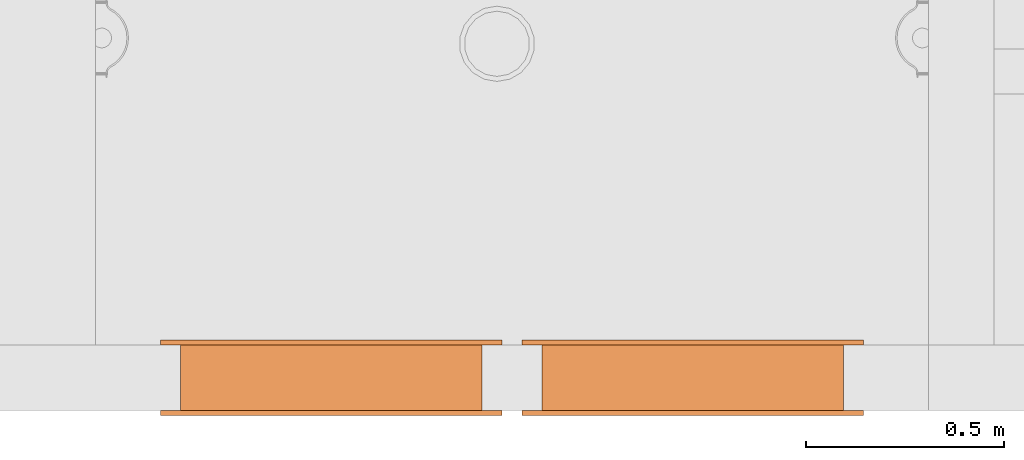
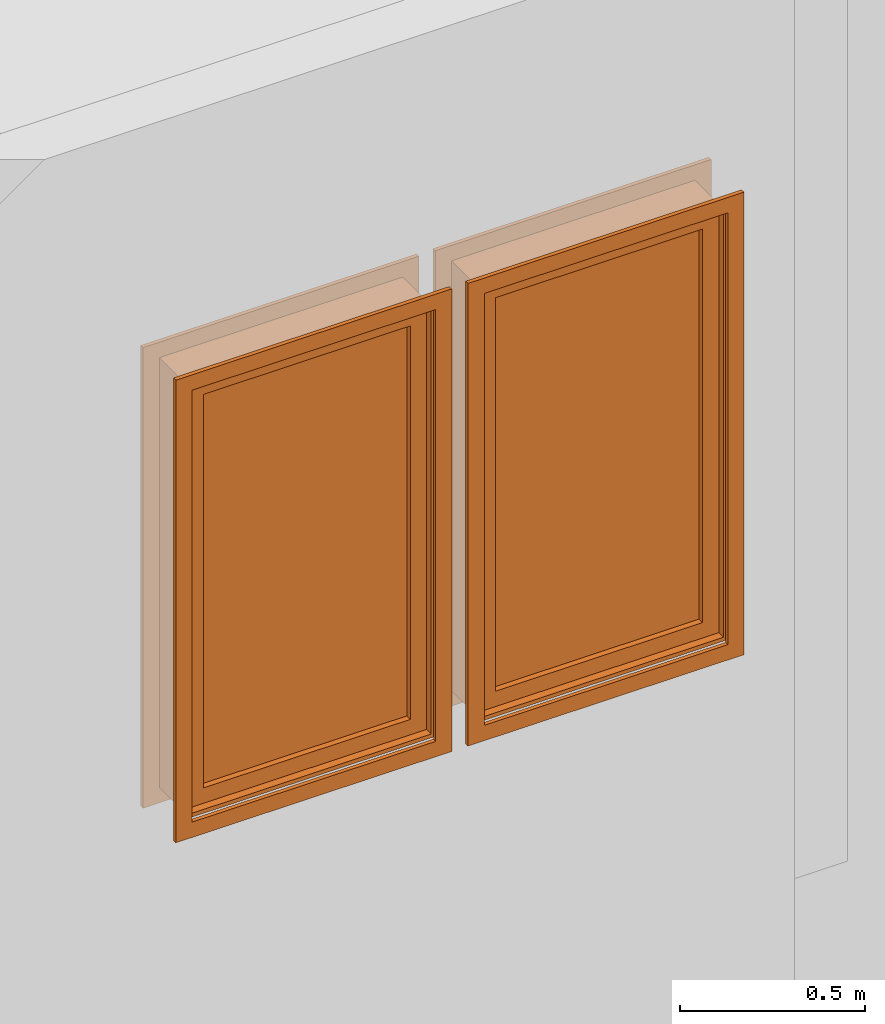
# One storey, part 57 of 103: 2 proxies.
"""IFC2X3 building model written with IfcOpenShell, lengths in inches."""

from ifc_helpers import new_model, entity, si_unit, converted_unit, derived_unit, money_unit, direction, frame, origin_with_axes, place, context, subcontext, project, spatial, faceted_brep, source, transform, mapped, type_object, element, save


model = new_model("IFC2X3")

# Units and contexts
model_context = context("Model", 3, precision=0.00039370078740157, world=origin_with_axes(), true_north=direction((0.0, 1.0)))
plan_context = context("Plan", 3, precision=0.00039370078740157, world=origin_with_axes(), true_north=direction((0.0, 1.0)))
body_context = subcontext(model_context, "Body", "Model", "MODEL_VIEW")
ifc_project = project(units=[converted_unit("LENGTHUNIT", "INCH", entity("IfcPositiveLengthMeasure", 0.0254), si_unit("LENGTHUNIT", "METRE"), dimensions=[1, 0, 0, 0, 0, 0, 0]), converted_unit("AREAUNIT", "SQUARE_FOOT", entity("IfcPositiveLengthMeasure", 0.09290304), si_unit("AREAUNIT", "SQUARE_METRE"), dimensions=[2, 0, 0, 0, 0, 0, 0]), si_unit("PLANEANGLEUNIT", "RADIAN"), si_unit("SOLIDANGLEUNIT", "STERADIAN"), money_unit("USD"), converted_unit("TIMEUNIT", "Year", entity("IfcTimeMeasure", 31557600.0), si_unit("TIMEUNIT", "SECOND"), dimensions=[0, 0, 1, 0, 0, 0, 0]), si_unit("MASSUNIT", "GRAM", prefix="KILO"), si_unit("THERMODYNAMICTEMPERATUREUNIT", "DEGREE_CELSIUS"), si_unit("LUMINOUSINTENSITYUNIT", "LUMEN"), si_unit("ENERGYUNIT", "JOULE", prefix="MEGA"), derived_unit("SPECIFICHEATCAPACITYUNIT", [(si_unit("ENERGYUNIT", "JOULE"), 1), (si_unit("MASSUNIT", "GRAM", prefix="KILO"), -1), (si_unit("THERMODYNAMICTEMPERATUREUNIT", "KELVIN"), -1)])], contexts=[model_context, plan_context])

# Site, building, storey
site_placement = place(None, origin_with_axes())
site = spatial("IfcSite", under=ifc_project, at=site_placement, Name="Site", CompositionType="ELEMENT")
building_placement = place(site_placement, origin_with_axes())
building = spatial("IfcBuilding", under=site, at=building_placement, Name="Building", CompositionType="ELEMENT")
storey_placement = place(building_placement, frame((0.0, 0.0, 127.9999999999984), z_axis=(0.0, 0.0, 1.0), x_axis=(1.0, 0.0, 0.0)))
storey = spatial("IfcBuildingStorey", under=building, at=storey_placement, Name="Second Floor", CompositionType="ELEMENT", Elevation=128.0)

# Proxies
building_element_proxy_type = type_object("IfcBuildingElementProxyType", Name="W Fixed", PredefinedType="NOTDEFINED")
shared_shape = source(origin_with_axes(), body_context, "Body", "Brep", [
    faceted_brep([(14.99999999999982, -4.499999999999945, 0.0), (14.99999999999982, -6.49999999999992, 0.0), (-14.99999999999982, -6.49999999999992, 0.0), (-14.99999999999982, -4.499999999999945, 0.0), (14.99999999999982, -4.499999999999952, 55.99999999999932), (14.99999999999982, -6.499999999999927, 55.99999999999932), (-14.99999999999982, -6.499999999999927, 55.99999999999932), (14.49999999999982, -6.49999999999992, 0.4999999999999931), (-14.49999999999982, -6.49999999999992, 0.4999999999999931), (-14.49999999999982, -6.499999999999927, 55.49999999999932), (14.49999999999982, -6.499999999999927, 55.49999999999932), (-14.99999999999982, -4.499999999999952, 55.99999999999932), (14.49999999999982, -4.499999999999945, 0.4999999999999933), (14.49999999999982, -4.499999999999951, 55.49999999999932), (-14.49999999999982, -4.499999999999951, 55.49999999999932), (-14.49999999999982, -4.499999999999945, 0.4999999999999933)], [[[0, 1, 2, 3]], [[4, 5, 1, 0]], [[1, 5, 6, 2], [7, 8, 9, 10]], [[3, 2, 6, 11]], [[0, 3, 11, 4], [12, 13, 14, 15]], [[11, 6, 5, 4]], [[15, 8, 7, 12]], [[14, 9, 8, 15]], [[13, 10, 9, 14]], [[12, 7, 10, 13]]]),
    faceted_brep([(16.99999999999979, -6.999999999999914, -1.999999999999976), (14.99999999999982, -6.999999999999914, 0.0), (14.99999999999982, -6.49999999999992, 0.0), (16.99999999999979, -6.499999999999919, -1.999999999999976), (16.99999999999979, -6.999999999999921, 57.99999999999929), (14.99999999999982, -6.99999999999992, 55.99999999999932), (14.99999999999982, -6.499999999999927, 55.99999999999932), (16.99999999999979, -6.499999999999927, 57.99999999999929)], [[[0, 1, 2, 3]], [[0, 4, 5, 1]], [[1, 5, 6, 2]], [[3, 2, 6, 7]], [[4, 0, 3, 7]], [[5, 4, 7, 6]]]),
    faceted_brep([(-16.99999999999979, -6.999999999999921, 57.99999999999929), (-14.99999999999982, -6.99999999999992, 55.99999999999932), (-14.99999999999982, -6.499999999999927, 55.99999999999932), (-16.99999999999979, -6.499999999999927, 57.99999999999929), (-16.99999999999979, -6.999999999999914, -1.999999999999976), (-14.99999999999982, -6.999999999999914, 0.0), (-14.99999999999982, -6.49999999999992, 0.0), (-16.99999999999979, -6.499999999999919, -1.999999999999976)], [[[0, 1, 2, 3]], [[0, 4, 5, 1]], [[1, 5, 6, 2]], [[3, 2, 6, 7]], [[4, 0, 3, 7]], [[5, 4, 7, 6]]]),
    faceted_brep([(-16.99999999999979, -6.999999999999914, -1.999999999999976), (-14.99999999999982, -6.999999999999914, 0.0), (-14.99999999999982, -6.49999999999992, 0.0), (-16.99999999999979, -6.499999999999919, -1.999999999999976), (16.99999999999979, -6.999999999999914, -1.999999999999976), (14.99999999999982, -6.999999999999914, 0.0), (14.99999999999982, -6.49999999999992, 0.0), (16.99999999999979, -6.499999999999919, -1.999999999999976)], [[[0, 1, 2, 3]], [[0, 4, 5, 1]], [[1, 5, 6, 2]], [[3, 2, 6, 7]], [[4, 0, 3, 7]], [[5, 4, 7, 6]]]),
    faceted_brep([(16.99999999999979, -6.999999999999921, 57.99999999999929), (14.99999999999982, -6.99999999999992, 55.99999999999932), (14.99999999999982, -6.499999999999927, 55.99999999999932), (16.99999999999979, -6.499999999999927, 57.99999999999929), (-16.99999999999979, -6.999999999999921, 57.99999999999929), (-14.99999999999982, -6.99999999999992, 55.99999999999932), (-14.99999999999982, -6.499999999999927, 55.99999999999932), (-16.99999999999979, -6.499999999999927, 57.99999999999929)], [[[0, 1, 2, 3]], [[0, 4, 5, 1]], [[1, 5, 6, 2]], [[3, 2, 6, 7]], [[4, 0, 3, 7]], [[5, 4, 7, 6]]]),
    faceted_brep([(16.99999999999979, 0.4999999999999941, -2.249999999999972), (16.99999999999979, 0.0, -2.249999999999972), (14.99999999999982, 0.0, -0.249999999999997), (14.99999999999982, 0.4999999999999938, -0.2499999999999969), (16.99999999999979, 0.4999999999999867, 57.99999999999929), (16.99999999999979, 0.0, 57.99999999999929), (14.99999999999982, 0.0, 55.99999999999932), (14.99999999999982, 0.499999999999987, 55.99999999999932)], [[[0, 1, 2, 3]], [[4, 5, 1, 0]], [[1, 5, 6, 2]], [[3, 2, 6, 7]], [[0, 3, 7, 4]], [[7, 6, 5, 4]]]),
    faceted_brep([(-16.99999999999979, 0.4999999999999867, 57.99999999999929), (-16.99999999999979, 0.0, 57.99999999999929), (-14.99999999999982, 0.0, 55.99999999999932), (-14.99999999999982, 0.499999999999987, 55.99999999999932), (-16.99999999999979, 0.4999999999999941, -2.249999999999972), (-16.99999999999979, 0.0, -2.249999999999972), (-14.99999999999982, 0.0, -0.249999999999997), (-14.99999999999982, 0.4999999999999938, -0.2499999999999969)], [[[0, 1, 2, 3]], [[4, 5, 1, 0]], [[1, 5, 6, 2]], [[3, 2, 6, 7]], [[0, 3, 7, 4]], [[7, 6, 5, 4]]]),
    faceted_brep([(-16.99999999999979, 0.4999999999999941, -2.249999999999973), (-16.99999999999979, 0.0, -2.249999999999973), (-14.99999999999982, 0.0, -0.249999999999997), (-14.99999999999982, 0.4999999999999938, -0.2499999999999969), (16.99999999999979, 0.4999999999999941, -2.249999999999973), (16.99999999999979, 0.0, -2.249999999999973), (14.99999999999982, 0.0, -0.249999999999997), (14.99999999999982, 0.4999999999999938, -0.2499999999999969)], [[[0, 1, 2, 3]], [[4, 5, 1, 0]], [[1, 5, 6, 2]], [[3, 2, 6, 7]], [[0, 3, 7, 4]], [[7, 6, 5, 4]]]),
    faceted_brep([(16.99999999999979, 0.4999999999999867, 57.99999999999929), (16.99999999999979, 0.0, 57.99999999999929), (14.99999999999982, 0.0, 55.99999999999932), (14.99999999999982, 0.499999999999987, 55.99999999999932), (-16.99999999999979, 0.4999999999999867, 57.99999999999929), (-16.99999999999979, 0.0, 57.99999999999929), (-14.99999999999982, 0.0, 55.99999999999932), (-14.99999999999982, 0.499999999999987, 55.99999999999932)], [[[0, 1, 2, 3]], [[4, 5, 1, 0]], [[1, 5, 6, 2]], [[3, 2, 6, 7]], [[0, 3, 7, 4]], [[7, 6, 5, 4]]]),
    faceted_brep([(14.50039370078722, -4.499999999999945, 0.7539370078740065), (14.99999999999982, -4.499999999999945, 0.7539370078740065), (14.99999999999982, -4.499999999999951, 55.49606299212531), (14.50039370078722, -4.499999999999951, 55.49606299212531), (14.50039370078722, -2.749999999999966, 0.7539370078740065), (14.74999999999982, -2.749999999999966, 0.7539370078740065), (14.74999999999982, 0.0, 0.7539370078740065), (14.99999999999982, 0.0, 0.7539370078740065), (14.99999999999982, 0.0, 55.49606299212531), (14.74999999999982, 0.0, 55.49606299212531), (14.74999999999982, -2.749999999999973, 55.49606299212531), (14.50039370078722, -2.749999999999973, 55.49606299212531)], [[[0, 1, 2, 3]], [[4, 5, 6, 7, 1, 0]], [[7, 8, 2, 1]], [[3, 2, 8, 9, 10, 11]], [[11, 4, 0, 3]], [[11, 10, 5, 4]], [[5, 10, 9, 6]], [[7, 6, 9, 8]]]),
    faceted_brep([(-14.50039370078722, -2.749999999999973, 55.49606299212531), (-14.74999999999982, -2.749999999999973, 55.49606299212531), (-14.74999999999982, 0.0, 55.49606299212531), (-14.99999999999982, 0.0, 55.49606299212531), (-14.99999999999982, -4.499999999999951, 55.49606299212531), (-14.50039370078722, -4.499999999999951, 55.49606299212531), (-14.50039370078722, -2.749999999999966, 0.7539370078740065), (-14.74999999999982, -2.749999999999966, 0.7539370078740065), (-14.74999999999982, 0.0, 0.7539370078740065), (-14.99999999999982, 0.0, 0.7539370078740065), (-14.99999999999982, -4.499999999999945, 0.7539370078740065), (-14.50039370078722, -4.499999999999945, 0.7539370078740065)], [[[0, 1, 2, 3, 4, 5]], [[6, 7, 1, 0]], [[7, 8, 2, 1]], [[3, 2, 8, 9]], [[3, 9, 10, 4]], [[5, 4, 10, 11]], [[11, 6, 0, 5]], [[11, 10, 9, 8, 7, 6]]]),
    faceted_brep([(-14.50039370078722, -2.749999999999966, 0.7539370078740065), (-14.74999999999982, -2.749999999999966, 0.7539370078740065), (-14.74999999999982, 0.0, 0.7539370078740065), (-14.99999999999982, 0.0, 0.7539370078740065), (-14.99999999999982, -4.499999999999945, 0.7539370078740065), (-14.50039370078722, -4.499999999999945, 0.7539370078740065), (-14.50039370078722, -2.749999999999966, 0.7496062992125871), (14.50039370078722, -2.749999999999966, 0.7496062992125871), (14.50039370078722, -2.749999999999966, 0.7539370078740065), (14.74999999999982, -2.749999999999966, 0.7539370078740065), (14.74999999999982, -2.749999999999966, 0.4999999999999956), (-14.74999999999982, -2.749999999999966, 0.4999999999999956), (-14.74999999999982, 0.0, 0.4999999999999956), (14.99999999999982, 0.0, 0.0), (-14.99999999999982, 0.0, 0.0), (14.74999999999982, 0.0, 0.4999999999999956), (14.74999999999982, 0.0, 0.7539370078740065), (14.99999999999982, 0.0, 0.7539370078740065), (-14.99999999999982, -4.499999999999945, 0.0), (14.50039370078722, -4.499999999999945, 0.7496062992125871), (-14.50039370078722, -4.499999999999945, 0.7496062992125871), (14.99999999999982, -4.499999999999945, 0.0), (14.99999999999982, -4.499999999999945, 0.7539370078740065), (14.50039370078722, -4.499999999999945, 0.7539370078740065)], [[[0, 1, 2, 3, 4, 5]], [[6, 7, 8, 9, 10, 11, 1, 0]], [[11, 12, 2, 1]], [[13, 14, 3, 2, 12, 15, 16, 17]], [[3, 14, 18, 4]], [[19, 20, 5, 4, 18, 21, 22, 23]], [[20, 6, 0, 5]], [[19, 7, 6, 20]], [[8, 7, 19, 23]], [[23, 22, 17, 16, 9, 8]], [[10, 9, 16, 15]], [[10, 15, 12, 11]], [[14, 13, 21, 18]], [[13, 17, 22, 21]]]),
    faceted_brep([(14.50039370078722, -4.499999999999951, 55.49606299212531), (14.99999999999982, -4.499999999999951, 55.49606299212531), (14.99999999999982, -4.499999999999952, 55.99999999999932), (-14.99999999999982, -4.499999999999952, 55.99999999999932), (-14.99999999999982, -4.499999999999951, 55.49606299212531), (-14.50039370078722, -4.499999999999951, 55.49606299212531), (-14.50039370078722, -4.499999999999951, 55.50039370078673), (14.50039370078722, -4.499999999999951, 55.50039370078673), (14.50039370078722, -2.749999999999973, 55.49606299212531), (14.74999999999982, -2.749999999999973, 55.49606299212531), (14.74999999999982, 0.0, 55.49606299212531), (14.99999999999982, 0.0, 55.49606299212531), (14.99999999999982, 0.0, 55.99999999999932), (-14.99999999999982, 0.0, 55.99999999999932), (-14.99999999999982, 0.0, 55.49606299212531), (-14.74999999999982, 0.0, 55.49606299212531), (-14.74999999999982, -2.749999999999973, 55.49606299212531), (-14.50039370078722, -2.749999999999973, 55.49606299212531), (-14.50039370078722, -2.749999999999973, 55.50039370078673), (14.50039370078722, -2.749999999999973, 55.50039370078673), (-14.74999999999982, -2.749999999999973, 55.74999999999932), (14.74999999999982, -2.749999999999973, 55.74999999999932), (14.74999999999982, 0.0, 55.74999999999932), (-14.74999999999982, 0.0, 55.74999999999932)], [[[0, 1, 2, 3, 4, 5, 6, 7]], [[8, 9, 10, 11, 1, 0]], [[11, 12, 2, 1]], [[12, 13, 3, 2]], [[13, 14, 4, 3]], [[5, 4, 14, 15, 16, 17]], [[5, 17, 18, 6]], [[6, 18, 19, 7]], [[7, 19, 8, 0]], [[19, 18, 17, 16, 20, 21, 9, 8]], [[21, 22, 10, 9]], [[15, 14, 13, 12, 11, 10, 22, 23]], [[16, 15, 23, 20]], [[20, 23, 22, 21]]]),
    faceted_brep([(12.74999999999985, -2.749999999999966, 2.499999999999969), (12.74999999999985, -2.749999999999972, 53.74999999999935), (12.74999999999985, -1.874999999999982, 53.74999999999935), (12.74999999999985, -1.874999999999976, 2.499999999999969), (14.74999999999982, -2.749999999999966, 2.499999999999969), (14.74999999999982, -2.749999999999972, 53.74999999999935), (14.74999999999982, -1.874999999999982, 53.74999999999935), (14.74999999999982, -1.874999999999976, 2.499999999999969)], [[[0, 1, 2, 3]], [[0, 4, 5, 1]], [[1, 5, 6, 2]], [[3, 2, 6, 7]], [[4, 0, 3, 7]], [[5, 4, 7, 6]]]),
    faceted_brep([(-14.74999999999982, -2.749999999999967, 2.499999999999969), (-14.74999999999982, -2.749999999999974, 53.74999999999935), (-14.74999999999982, -1.874999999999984, 53.74999999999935), (-14.74999999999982, -1.874999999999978, 2.499999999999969), (-12.74999999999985, -2.749999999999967, 2.499999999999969), (-12.74999999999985, -2.749999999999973, 53.74999999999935), (-12.74999999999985, -1.874999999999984, 53.74999999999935), (-12.74999999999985, -1.874999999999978, 2.499999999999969)], [[[0, 1, 2, 3]], [[0, 4, 5, 1]], [[1, 5, 6, 2]], [[3, 2, 6, 7]], [[4, 0, 3, 7]], [[5, 4, 7, 6]]]),
    faceted_brep([(-14.74999999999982, -2.749999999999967, 0.4999999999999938), (-14.74999999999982, -2.749999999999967, 2.499999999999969), (-14.74999999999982, -1.874999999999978, 2.499999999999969), (-14.74999999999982, -1.874999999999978, 0.4999999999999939), (14.74999999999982, -2.749999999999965, 0.4999999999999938), (14.74999999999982, -2.749999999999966, 2.499999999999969), (12.74999999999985, -2.749999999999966, 2.499999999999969), (0.9999999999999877, -2.749999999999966, 2.499999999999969), (-0.9999999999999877, -2.749999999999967, 2.499999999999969), (-12.74999999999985, -2.749999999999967, 2.499999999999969), (-12.74999999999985, -1.874999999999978, 2.499999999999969), (-0.9999999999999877, -1.874999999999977, 2.499999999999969), (0.9999999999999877, -1.874999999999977, 2.499999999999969), (12.74999999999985, -1.874999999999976, 2.499999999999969), (14.74999999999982, -1.874999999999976, 2.499999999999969), (14.74999999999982, -1.874999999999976, 0.4999999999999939)], [[[0, 1, 2, 3]], [[0, 4, 5, 6, 7, 8, 9, 1]], [[1, 9, 10, 2]], [[3, 2, 10, 11, 12, 13, 14, 15]], [[4, 0, 3, 15]], [[5, 4, 15, 14]], [[6, 5, 14, 13]], [[7, 6, 13, 12]], [[8, 7, 12, 11]], [[9, 8, 11, 10]]]),
    faceted_brep([(14.74999999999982, -2.749999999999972, 55.74999999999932), (14.74999999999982, -2.749999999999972, 53.74999999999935), (14.74999999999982, -1.874999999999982, 53.74999999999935), (14.74999999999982, -1.874999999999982, 55.74999999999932), (-14.74999999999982, -2.749999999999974, 55.74999999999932), (-14.74999999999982, -2.749999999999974, 53.74999999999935), (-12.74999999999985, -2.749999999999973, 53.74999999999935), (-0.9999999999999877, -2.749999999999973, 53.74999999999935), (0.9999999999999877, -2.749999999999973, 53.74999999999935), (12.74999999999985, -2.749999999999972, 53.74999999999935), (12.74999999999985, -1.874999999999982, 53.74999999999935), (0.9999999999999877, -1.874999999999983, 53.74999999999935), (-0.9999999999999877, -1.874999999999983, 53.74999999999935), (-12.74999999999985, -1.874999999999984, 53.74999999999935), (-14.74999999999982, -1.874999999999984, 53.74999999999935), (-14.74999999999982, -1.874999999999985, 55.74999999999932)], [[[0, 1, 2, 3]], [[0, 4, 5, 6, 7, 8, 9, 1]], [[1, 9, 10, 2]], [[3, 2, 10, 11, 12, 13, 14, 15]], [[4, 0, 3, 15]], [[5, 4, 15, 14]], [[6, 5, 14, 13]], [[7, 6, 13, 12]], [[8, 7, 12, 11]], [[9, 8, 11, 10]]]),
    faceted_brep([(12.74999999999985, -1.874999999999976, 2.499999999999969), (12.74999999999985, -1.874999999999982, 53.74999999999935), (12.74999999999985, -0.9999999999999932, 53.74999999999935), (12.74999999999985, -0.9999999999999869, 2.499999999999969), (14.74999999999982, -1.874999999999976, 2.499999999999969), (14.74999999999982, -1.874999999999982, 53.74999999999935), (14.74999999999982, -0.9999999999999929, 53.74999999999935), (14.74999999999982, -0.9999999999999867, 2.499999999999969)], [[[0, 1, 2, 3]], [[0, 4, 5, 1]], [[1, 5, 6, 2]], [[3, 2, 6, 7]], [[4, 0, 3, 7]], [[5, 4, 7, 6]]]),
    faceted_brep([(-14.74999999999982, -1.874999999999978, 2.499999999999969), (-14.74999999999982, -1.874999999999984, 53.74999999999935), (-14.74999999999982, -0.9999999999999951, 53.74999999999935), (-14.74999999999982, -0.9999999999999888, 2.499999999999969), (-12.74999999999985, -1.874999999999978, 2.499999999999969), (-12.74999999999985, -1.874999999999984, 53.74999999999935), (-12.74999999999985, -0.9999999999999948, 53.74999999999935), (-12.74999999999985, -0.9999999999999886, 2.499999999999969)], [[[0, 1, 2, 3]], [[0, 4, 5, 1]], [[1, 5, 6, 2]], [[3, 2, 6, 7]], [[4, 0, 3, 7]], [[5, 4, 7, 6]]]),
    faceted_brep([(-14.74999999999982, -1.874999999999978, 0.4999999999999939), (-14.74999999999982, -1.874999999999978, 2.499999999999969), (-14.74999999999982, -0.9999999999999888, 2.499999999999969), (-14.74999999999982, -0.9999999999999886, 0.499999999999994), (14.74999999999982, -1.874999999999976, 0.4999999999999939), (14.74999999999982, -1.874999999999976, 2.499999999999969), (12.74999999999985, -1.874999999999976, 2.499999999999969), (0.9999999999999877, -1.874999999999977, 2.499999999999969), (-0.9999999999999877, -1.874999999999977, 2.499999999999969), (-12.74999999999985, -1.874999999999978, 2.499999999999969), (-12.74999999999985, -0.9999999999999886, 2.499999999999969), (-0.9999999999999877, -0.9999999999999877, 2.499999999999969), (0.9999999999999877, -0.9999999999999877, 2.499999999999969), (12.74999999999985, -0.9999999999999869, 2.499999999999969), (14.74999999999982, -0.9999999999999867, 2.499999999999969), (14.74999999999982, -0.9999999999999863, 0.499999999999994)], [[[0, 1, 2, 3]], [[0, 4, 5, 6, 7, 8, 9, 1]], [[1, 9, 10, 2]], [[3, 2, 10, 11, 12, 13, 14, 15]], [[4, 0, 3, 15]], [[5, 4, 15, 14]], [[6, 5, 14, 13]], [[7, 6, 13, 12]], [[8, 7, 12, 11]], [[9, 8, 11, 10]]]),
    faceted_brep([(14.74999999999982, -1.874999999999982, 55.74999999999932), (14.74999999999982, -1.874999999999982, 53.74999999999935), (14.74999999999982, -0.9999999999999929, 53.74999999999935), (14.74999999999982, -0.9999999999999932, 55.74999999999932), (-14.74999999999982, -1.874999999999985, 55.74999999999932), (-14.74999999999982, -1.874999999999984, 53.74999999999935), (-12.74999999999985, -1.874999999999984, 53.74999999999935), (-0.9999999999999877, -1.874999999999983, 53.74999999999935), (0.9999999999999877, -1.874999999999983, 53.74999999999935), (12.74999999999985, -1.874999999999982, 53.74999999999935), (12.74999999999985, -0.9999999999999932, 53.74999999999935), (0.9999999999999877, -0.999999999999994, 53.74999999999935), (-0.9999999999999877, -0.999999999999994, 53.74999999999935), (-12.74999999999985, -0.9999999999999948, 53.74999999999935), (-14.74999999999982, -0.9999999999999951, 53.74999999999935), (-14.74999999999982, -0.9999999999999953, 55.74999999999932)], [[[0, 1, 2, 3]], [[0, 4, 5, 6, 7, 8, 9, 1]], [[1, 9, 10, 2]], [[3, 2, 10, 11, 12, 13, 14, 15]], [[4, 0, 3, 15]], [[5, 4, 15, 14]], [[6, 5, 14, 13]], [[7, 6, 13, 12]], [[8, 7, 12, 11]], [[9, 8, 11, 10]]]),
    faceted_brep([(12.74999999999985, -1.999999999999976, 2.499999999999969), (-12.74999999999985, -1.999999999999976, 2.499999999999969), (-12.74999999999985, -1.749999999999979, 2.499999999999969), (12.74999999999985, -1.749999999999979, 2.499999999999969), (12.74999999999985, -1.999999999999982, 53.74999999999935), (-12.74999999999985, -1.999999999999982, 53.74999999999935), (-12.74999999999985, -1.749999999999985, 53.74999999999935), (12.74999999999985, -1.749999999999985, 53.74999999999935)], [[[0, 1, 2, 3]], [[0, 4, 5, 1]], [[1, 5, 6, 2]], [[3, 2, 6, 7]], [[4, 0, 3, 7]], [[5, 4, 7, 6]]]),
])
for number, where, z_axis, x_axis, name in (
    (1, (235.9999999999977, 6.500000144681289, 33.99999999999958), (0.0, 0.0, 1.0), (-1.0, 0.0, 0.0), "WD - 002"),
    (2, (199.9999999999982, 6.500000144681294, 33.99999999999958), (0.0, 0.0, 1.0), (-1.0, 0.0, 0.0), "WD - 002"),
):
    element("IfcBuildingElementProxy", number, at=place(storey_placement, frame(where, z_axis=z_axis, x_axis=x_axis)), inside=storey, type_object=building_element_proxy_type, Name=name, context=body_context, shape_type="MappedRepresentation", body=[
        mapped(shared_shape, transform((14.99999999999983, 6.499999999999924, 0.0))),
    ])

save(model, "model.ifc")
